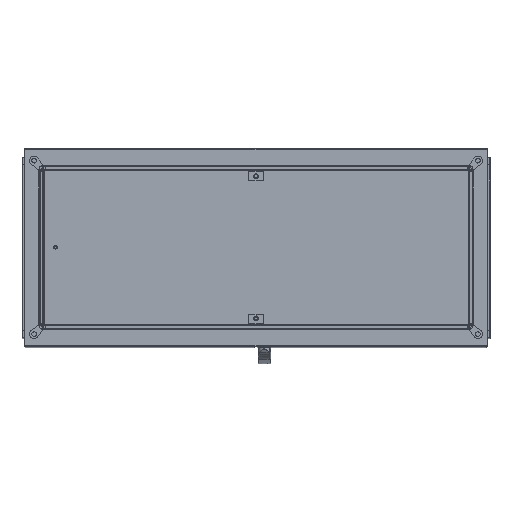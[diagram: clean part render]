
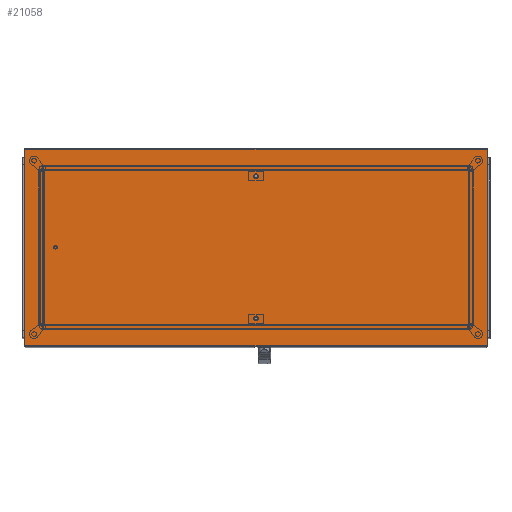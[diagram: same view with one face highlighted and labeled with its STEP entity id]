
A CAD part, top view. The second image highlights one B-rep face of the part: STEP entity #21058.
In plain terms, the highlighted planar face has unit normal (0, 0, 1) as drawn and (0, -1, 0) by its records, which use the part's own axes.
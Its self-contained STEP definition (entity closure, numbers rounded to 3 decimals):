
#1356=CIRCLE('',#22985,6.318);
#1357=CIRCLE('',#22986,6.318);
#6040=ORIENTED_EDGE('',*,*,#9960,.F.);
#6041=ORIENTED_EDGE('',*,*,#9973,.F.);
#6042=ORIENTED_EDGE('',*,*,#9919,.F.);
#6043=ORIENTED_EDGE('',*,*,#9966,.F.);
#6044=ORIENTED_EDGE('',*,*,#9980,.F.);
#6045=ORIENTED_EDGE('',*,*,#9981,.F.);
#9919=EDGE_CURVE('',#12225,#12226,#14271,.T.);
#9960=EDGE_CURVE('',#12260,#12261,#14301,.T.);
#9966=EDGE_CURVE('',#12261,#12225,#14306,.T.);
#9973=EDGE_CURVE('',#12226,#12260,#14313,.T.);
#9980=EDGE_CURVE('',#12274,#12274,#1356,.T.);
#9981=EDGE_CURVE('',#12275,#12275,#1357,.T.);
#12225=VERTEX_POINT('',#34695);
#12226=VERTEX_POINT('',#34697);
#12260=VERTEX_POINT('',#34775);
#12261=VERTEX_POINT('',#34777);
#12274=VERTEX_POINT('',#34813);
#12275=VERTEX_POINT('',#34815);
#14271=LINE('',#34696,#16340);
#14301=LINE('',#34776,#16370);
#14306=LINE('',#34788,#16375);
#14313=LINE('',#34800,#16382);
#16340=VECTOR('',#27963,1000.);
#16370=VECTOR('',#28023,1000.);
#16375=VECTOR('',#28032,1000.);
#16382=VECTOR('',#28041,1000.);
#17845=EDGE_LOOP('',(#6040,#6041,#6042,#6043));
#17846=EDGE_LOOP('',(#6044));
#17847=EDGE_LOOP('',(#6045));
#19148=FACE_BOUND('',#17845,.T.);
#19149=FACE_BOUND('',#17846,.T.);
#19150=FACE_BOUND('',#17847,.T.);
#20018=PLANE('',#22984);
#21058=ADVANCED_FACE('',(#19148,#19149,#19150),#20018,.F.);
#22984=AXIS2_PLACEMENT_3D('',#34811,#28048,#28049);
#22985=AXIS2_PLACEMENT_3D('',#34812,#28050,#28051);
#22986=AXIS2_PLACEMENT_3D('',#34814,#28052,#28053);
#27963=DIRECTION('',(1.,0.,0.));
#28023=DIRECTION('',(-1.,0.,0.));
#28032=DIRECTION('',(0.,0.,1.));
#28041=DIRECTION('',(0.,0.,-1.));
#28048=DIRECTION('',(0.,1.,0.));
#28049=DIRECTION('',(0.,0.,1.));
#28050=DIRECTION('',(0.,-1.,0.));
#28051=DIRECTION('',(0.,0.,-1.));
#28052=DIRECTION('',(0.,-1.,0.));
#28053=DIRECTION('',(0.,0.,-1.));
#34695=CARTESIAN_POINT('',(-599.5,0.,255.5));
#34696=CARTESIAN_POINT('',(-599.5,0.,255.5));
#34697=CARTESIAN_POINT('',(599.5,0.,255.5));
#34775=CARTESIAN_POINT('',(599.5,0.,-255.5));
#34776=CARTESIAN_POINT('',(599.5,0.,-255.5));
#34777=CARTESIAN_POINT('',(-599.5,0.,-255.5));
#34788=CARTESIAN_POINT('',(-599.5,0.,-255.5));
#34800=CARTESIAN_POINT('',(599.5,0.,255.5));
#34811=CARTESIAN_POINT('',(0.,0.,0.));
#34812=CARTESIAN_POINT('',(0.,0.,184.));
#34813=CARTESIAN_POINT('',(0.,0.,177.682));
#34814=CARTESIAN_POINT('',(0.,0.,-184.));
#34815=CARTESIAN_POINT('',(0.,0.,-190.318));
